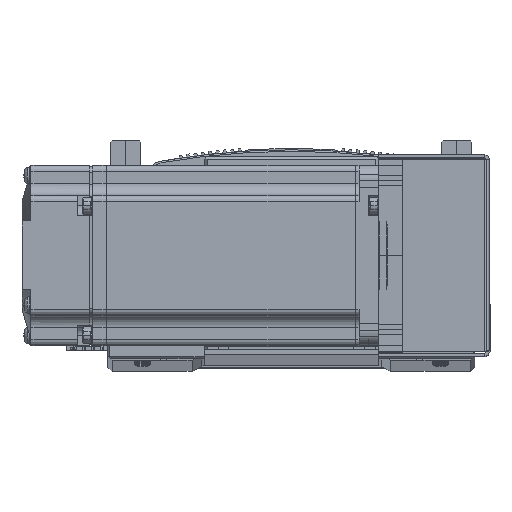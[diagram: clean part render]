
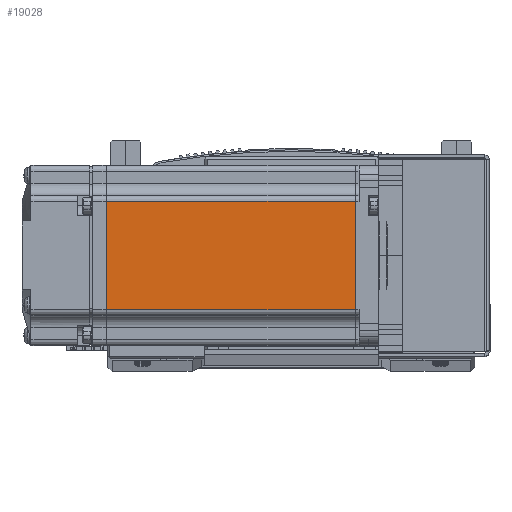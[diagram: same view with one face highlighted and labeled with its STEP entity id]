
A CAD part, top view. The second image highlights one B-rep face of the part: STEP entity #19028.
In plain terms, the highlighted planar face has unit normal (0, 0, 1) as drawn and (0, 1, 0) by its records, which use the part's own axes.
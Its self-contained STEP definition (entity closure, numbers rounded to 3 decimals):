
#406 = CARTESIAN_POINT ( 'NONE',  ( -90.45, 30., 18. ) ) ;
#468 = CARTESIAN_POINT ( 'NONE',  ( -7.75, 30., 18. ) ) ;
#4746 = LINE ( 'NONE', #36526, #4763 ) ;
#4751 = VECTOR ( 'NONE', #36515, 1000. ) ;
#4763 = VECTOR ( 'NONE', #36541, 1000. ) ;
#4771 = LINE ( 'NONE', #36534, #4751 ) ;
#4796 = VECTOR ( 'NONE', #36593, 1000. ) ;
#4797 = LINE ( 'NONE', #36591, #4796 ) ;
#4827 = LINE ( 'NONE', #36745, #4838 ) ;
#4838 = VECTOR ( 'NONE', #36774, 1000. ) ;
#19028 = ADVANCED_FACE ( 'NONE', ( #26481 ), #50485, .T. ) ;
#26481 = FACE_OUTER_BOUND ( 'NONE', #92089, .T. ) ;
#34699 = AXIS2_PLACEMENT_3D ( 'NONE', #50475, #50489, #50477 ) ;
#36515 = DIRECTION ( 'NONE',  ( 0., 0., 1. ) ) ;
#36526 = CARTESIAN_POINT ( 'NONE',  ( -7.75, 30., 0. ) ) ;
#36534 = CARTESIAN_POINT ( 'NONE',  ( -90.45, 30., 0. ) ) ;
#36541 = DIRECTION ( 'NONE',  ( 0., 0., 1. ) ) ;
#36591 = CARTESIAN_POINT ( 'NONE',  ( -6.5, 30., -18. ) ) ;
#36593 = DIRECTION ( 'NONE',  ( -1., 0., 0. ) ) ;
#36745 = CARTESIAN_POINT ( 'NONE',  ( -6.5, 30., 18. ) ) ;
#36774 = DIRECTION ( 'NONE',  ( 1., 0., 0. ) ) ;
#50475 = CARTESIAN_POINT ( 'NONE',  ( -6.5, 30., 25. ) ) ;
#50477 = DIRECTION ( 'NONE',  ( 0., 0., 1. ) ) ;
#50485 = PLANE ( 'NONE',  #34699 ) ;
#50489 = DIRECTION ( 'NONE',  ( 0., 1., 0. ) ) ;
#76934 = ORIENTED_EDGE ( 'NONE', *, *, #80837, .F. ) ;
#77086 = ORIENTED_EDGE ( 'NONE', *, *, #80896, .T. ) ;
#77126 = ORIENTED_EDGE ( 'NONE', *, *, #80862, .T. ) ;
#77388 = ORIENTED_EDGE ( 'NONE', *, *, #80838, .T. ) ;
#80837 = EDGE_CURVE ( 'NONE', #83554, #98455, #4746, .T. ) ;
#80838 = EDGE_CURVE ( 'NONE', #83563, #98398, #4771, .T. ) ;
#80862 = EDGE_CURVE ( 'NONE', #83554, #83563, #4797, .T. ) ;
#80896 = EDGE_CURVE ( 'NONE', #98398, #98455, #4827, .T. ) ;
#83554 = VERTEX_POINT ( 'NONE', #97027 ) ;
#83563 = VERTEX_POINT ( 'NONE', #97042 ) ;
#92089 = EDGE_LOOP ( 'NONE', ( #76934, #77126, #77388, #77086 ) ) ;
#97027 = CARTESIAN_POINT ( 'NONE',  ( -7.75, 30., -18. ) ) ;
#97042 = CARTESIAN_POINT ( 'NONE',  ( -90.45, 30., -18. ) ) ;
#98398 = VERTEX_POINT ( 'NONE', #406 ) ;
#98455 = VERTEX_POINT ( 'NONE', #468 ) ;
